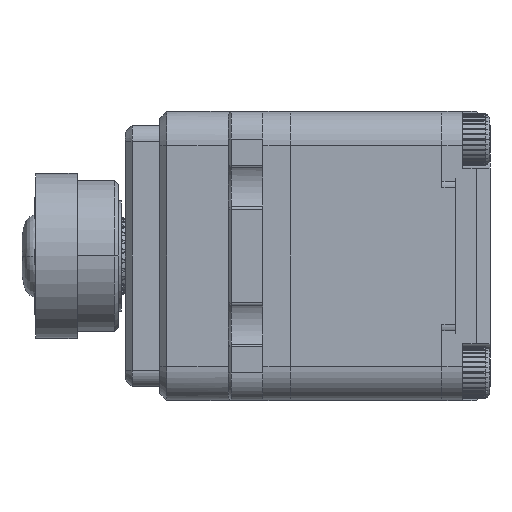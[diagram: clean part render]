
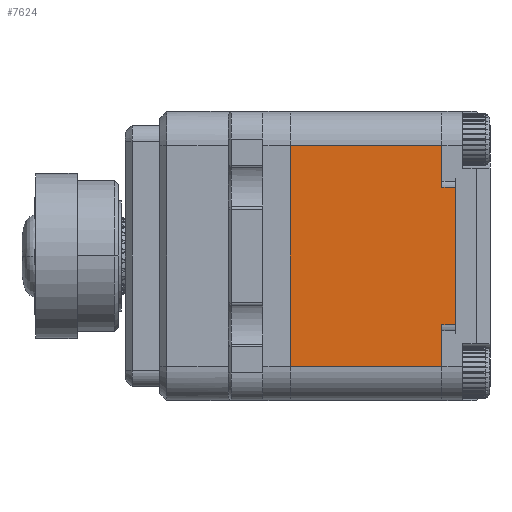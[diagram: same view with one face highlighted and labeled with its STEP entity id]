
A CAD part, left-side view. The second image highlights one B-rep face of the part: STEP entity #7624.
In plain terms, the highlighted planar face has unit normal (-1, 0, 0).
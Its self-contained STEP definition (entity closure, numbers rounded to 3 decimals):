
#5839=DIRECTION('',(0.,0.,-1.));
#5840=VECTOR('',#5839,16.);
#5841=CARTESIAN_POINT('',(-20.5,0.,8.));
#5842=LINE('',#5841,#5840);
#5917=DIRECTION('',(0.,-1.,0.));
#5918=VECTOR('',#5917,11.);
#5919=CARTESIAN_POINT('',(-20.5,0.,-8.));
#5920=LINE('',#5919,#5918);
#6622=DIRECTION('',(0.,1.,0.));
#6623=VECTOR('',#6622,1.);
#6624=CARTESIAN_POINT('',(-20.5,-12.,5.));
#6625=LINE('',#6624,#6623);
#6629=DIRECTION('',(0.,0.,-1.));
#6630=VECTOR('',#6629,3.);
#6631=CARTESIAN_POINT('',(-20.5,-11.,-5.));
#6632=LINE('',#6631,#6630);
#6636=DIRECTION('',(0.,0.,-1.));
#6637=VECTOR('',#6636,3.);
#6638=CARTESIAN_POINT('',(-20.5,-11.,8.));
#6639=LINE('',#6638,#6637);
#6643=DIRECTION('',(0.,0.,-1.));
#6644=VECTOR('',#6643,10.);
#6645=CARTESIAN_POINT('',(-20.5,-12.,5.));
#6646=LINE('',#6645,#6644);
#6657=DIRECTION('',(0.,-1.,0.));
#6658=VECTOR('',#6657,1.);
#6659=CARTESIAN_POINT('',(-20.5,-11.,-5.));
#6660=LINE('',#6659,#6658);
#6692=DIRECTION('',(0.,1.,0.));
#6693=VECTOR('',#6692,11.);
#6694=CARTESIAN_POINT('',(-20.5,-11.,8.));
#6695=LINE('',#6694,#6693);
#6850=CARTESIAN_POINT('',(-20.5,0.,-8.));
#6852=VERTEX_POINT('',#6850);
#6864=CARTESIAN_POINT('',(-20.5,0.,8.));
#6865=VERTEX_POINT('',#6864);
#6883=CARTESIAN_POINT('',(-20.5,-11.,-8.));
#6885=VERTEX_POINT('',#6883);
#6892=CARTESIAN_POINT('',(-20.5,-11.,-5.));
#6893=VERTEX_POINT('',#6892);
#6934=CARTESIAN_POINT('',(-20.5,-12.,-5.));
#6935=VERTEX_POINT('',#6934);
#6936=CARTESIAN_POINT('',(-20.5,-12.,5.));
#6937=VERTEX_POINT('',#6936);
#7022=CARTESIAN_POINT('',(-20.5,-11.,5.));
#7023=VERTEX_POINT('',#7022);
#7024=CARTESIAN_POINT('',(-20.5,-11.,8.));
#7025=VERTEX_POINT('',#7024);
#7607=CARTESIAN_POINT('',(-20.5,0.,-8.));
#7608=DIRECTION('',(-1.,0.,0.));
#7609=DIRECTION('',(0.,0.,1.));
#7610=AXIS2_PLACEMENT_3D('',#7607,#7608,#7609);
#7611=PLANE('',#7610);
#7613=ORIENTED_EDGE('',*,*,#7612,.F.);
#7614=ORIENTED_EDGE('',*,*,#7117,.T.);
#7615=ORIENTED_EDGE('',*,*,#7100,.F.);
#7616=ORIENTED_EDGE('',*,*,#7061,.F.);
#7618=ORIENTED_EDGE('',*,*,#7617,.F.);
#7619=ORIENTED_EDGE('',*,*,#7567,.T.);
#7620=ORIENTED_EDGE('',*,*,#7601,.F.);
#7621=ORIENTED_EDGE('',*,*,#7196,.T.);
#7622=EDGE_LOOP('',(#7613,#7614,#7615,#7616,#7618,#7619,#7620,#7621));
#7623=FACE_OUTER_BOUND('',#7622,.F.);
#7624=ADVANCED_FACE('',(#7623),#7611,.T.);
#7061=EDGE_CURVE('',#6865,#6852,#5842,.T.);
#7100=EDGE_CURVE('',#6852,#6885,#5920,.T.);
#7117=EDGE_CURVE('',#6893,#6885,#6632,.T.);
#7196=EDGE_CURVE('',#6937,#6935,#6646,.T.);
#7567=EDGE_CURVE('',#7025,#7023,#6639,.T.);
#7601=EDGE_CURVE('',#6937,#7023,#6625,.T.);
#7612=EDGE_CURVE('',#6893,#6935,#6660,.T.);
#7617=EDGE_CURVE('',#7025,#6865,#6695,.T.);
